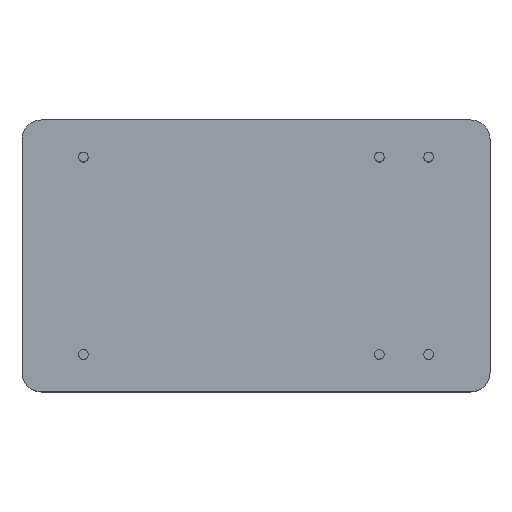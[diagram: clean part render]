
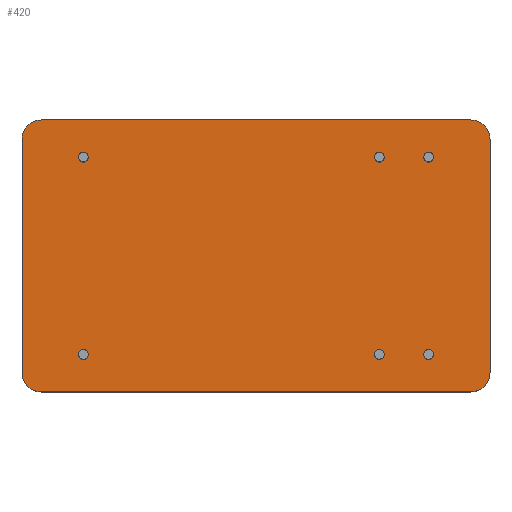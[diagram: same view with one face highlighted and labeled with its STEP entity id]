
A CAD part, top view. The second image highlights one B-rep face of the part: STEP entity #420.
In plain terms, the highlighted planar face has unit normal (0, 0, 1).
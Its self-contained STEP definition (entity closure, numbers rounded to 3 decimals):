
#24=LINE('',#742,#44);
#28=LINE('',#751,#48);
#31=LINE('',#763,#51);
#33=LINE('',#767,#53);
#44=VECTOR('',#584,12.);
#48=VECTOR('',#594,22.1);
#51=VECTOR('',#609,22.1);
#53=VECTOR('',#613,12.);
#69=PLANE('',#479);
#77=FACE_BOUND('',#147,.T.);
#78=FACE_BOUND('',#148,.T.);
#79=FACE_BOUND('',#149,.T.);
#80=FACE_BOUND('',#150,.T.);
#81=FACE_BOUND('',#151,.T.);
#82=FACE_BOUND('',#152,.T.);
#110=FACE_OUTER_BOUND('',#146,.T.);
#146=EDGE_LOOP('',(#357,#358,#359,#360,#361,#362,#363,#364));
#147=EDGE_LOOP('',(#365));
#148=EDGE_LOOP('',(#366));
#149=EDGE_LOOP('',(#367));
#150=EDGE_LOOP('',(#368));
#151=EDGE_LOOP('',(#369));
#152=EDGE_LOOP('',(#370));
#156=CIRCLE('',#427,0.25);
#158=CIRCLE('',#431,0.25);
#160=CIRCLE('',#435,0.25);
#162=CIRCLE('',#439,0.25);
#164=CIRCLE('',#443,0.25);
#166=CIRCLE('',#447,0.25);
#183=CIRCLE('',#471,1.);
#184=CIRCLE('',#474,1.);
#185=CIRCLE('',#477,1.);
#186=CIRCLE('',#480,1.);
#188=VERTEX_POINT('',#625);
#190=VERTEX_POINT('',#631);
#192=VERTEX_POINT('',#637);
#194=VERTEX_POINT('',#643);
#196=VERTEX_POINT('',#649);
#198=VERTEX_POINT('',#655);
#215=VERTEX_POINT('',#739);
#216=VERTEX_POINT('',#741);
#217=VERTEX_POINT('',#745);
#218=VERTEX_POINT('',#749);
#219=VERTEX_POINT('',#753);
#220=VERTEX_POINT('',#758);
#221=VERTEX_POINT('',#762);
#222=VERTEX_POINT('',#766);
#224=EDGE_CURVE('',#188,#188,#156,.T.);
#226=EDGE_CURVE('',#190,#190,#158,.T.);
#228=EDGE_CURVE('',#192,#192,#160,.T.);
#230=EDGE_CURVE('',#194,#194,#162,.T.);
#232=EDGE_CURVE('',#196,#196,#164,.T.);
#234=EDGE_CURVE('',#198,#198,#166,.T.);
#260=EDGE_CURVE('',#216,#215,#24,.T.);
#263=EDGE_CURVE('',#217,#215,#183,.T.);
#265=EDGE_CURVE('',#217,#218,#28,.T.);
#267=EDGE_CURVE('',#219,#218,#184,.T.);
#268=EDGE_CURVE('',#216,#220,#185,.T.);
#270=EDGE_CURVE('',#221,#220,#31,.T.);
#272=EDGE_CURVE('',#219,#222,#33,.T.);
#273=EDGE_CURVE('',#221,#222,#186,.T.);
#357=ORIENTED_EDGE('',*,*,#268,.F.);
#358=ORIENTED_EDGE('',*,*,#260,.T.);
#359=ORIENTED_EDGE('',*,*,#263,.F.);
#360=ORIENTED_EDGE('',*,*,#265,.T.);
#361=ORIENTED_EDGE('',*,*,#267,.F.);
#362=ORIENTED_EDGE('',*,*,#272,.T.);
#363=ORIENTED_EDGE('',*,*,#273,.F.);
#364=ORIENTED_EDGE('',*,*,#270,.T.);
#365=ORIENTED_EDGE('',*,*,#224,.T.);
#366=ORIENTED_EDGE('',*,*,#226,.T.);
#367=ORIENTED_EDGE('',*,*,#228,.T.);
#368=ORIENTED_EDGE('',*,*,#230,.T.);
#369=ORIENTED_EDGE('',*,*,#232,.T.);
#370=ORIENTED_EDGE('',*,*,#234,.T.);
#420=ADVANCED_FACE('',(#110,#77,#78,#79,#80,#81,#82),#69,.T.);
#427=AXIS2_PLACEMENT_3D('',#626,#489,#490);
#431=AXIS2_PLACEMENT_3D('',#632,#497,#498);
#435=AXIS2_PLACEMENT_3D('',#638,#505,#506);
#439=AXIS2_PLACEMENT_3D('',#644,#513,#514);
#443=AXIS2_PLACEMENT_3D('',#650,#521,#522);
#447=AXIS2_PLACEMENT_3D('',#656,#529,#530);
#471=AXIS2_PLACEMENT_3D('',#747,#589,#590);
#474=AXIS2_PLACEMENT_3D('',#755,#598,#599);
#477=AXIS2_PLACEMENT_3D('',#759,#604,#605);
#479=AXIS2_PLACEMENT_3D('',#765,#611,#612);
#480=AXIS2_PLACEMENT_3D('',#768,#614,#615);
#489=DIRECTION('center_axis',(0.,0.,-1.));
#490=DIRECTION('ref_axis',(-1.,0.,0.));
#497=DIRECTION('center_axis',(0.,0.,-1.));
#498=DIRECTION('ref_axis',(-1.,0.,0.));
#505=DIRECTION('center_axis',(0.,0.,-1.));
#506=DIRECTION('ref_axis',(-1.,0.,0.));
#513=DIRECTION('center_axis',(0.,0.,-1.));
#514=DIRECTION('ref_axis',(-1.,0.,0.));
#521=DIRECTION('center_axis',(0.,0.,-1.));
#522=DIRECTION('ref_axis',(-1.,0.,0.));
#529=DIRECTION('center_axis',(0.,0.,-1.));
#530=DIRECTION('ref_axis',(-1.,0.,0.));
#584=DIRECTION('',(0.,-1.,0.));
#589=DIRECTION('center_axis',(0.,0.,-1.));
#590=DIRECTION('ref_axis',(-0.707,-0.707,0.));
#594=DIRECTION('',(1.,0.,0.));
#598=DIRECTION('center_axis',(0.,0.,-1.));
#599=DIRECTION('ref_axis',(0.707,-0.707,0.));
#604=DIRECTION('center_axis',(0.,0.,-1.));
#605=DIRECTION('ref_axis',(-0.707,0.707,0.));
#609=DIRECTION('',(-1.,0.,0.));
#611=DIRECTION('center_axis',(0.,0.,1.));
#612=DIRECTION('ref_axis',(1.,0.,0.));
#613=DIRECTION('',(0.,1.,0.));
#614=DIRECTION('center_axis',(0.,0.,-1.));
#615=DIRECTION('ref_axis',(0.707,0.707,0.));
#625=CARTESIAN_POINT('',(6.6,-5.08,7.9));
#626=CARTESIAN_POINT('Origin',(6.35,-5.08,7.9));
#631=CARTESIAN_POINT('',(9.14,5.08,7.9));
#632=CARTESIAN_POINT('Origin',(8.89,5.08,7.9));
#637=CARTESIAN_POINT('',(-8.64,5.08,7.9));
#638=CARTESIAN_POINT('Origin',(-8.89,5.08,7.9));
#643=CARTESIAN_POINT('',(6.6,5.08,7.9));
#644=CARTESIAN_POINT('Origin',(6.35,5.08,7.9));
#649=CARTESIAN_POINT('',(9.14,-5.08,7.9));
#650=CARTESIAN_POINT('Origin',(8.89,-5.08,7.9));
#655=CARTESIAN_POINT('',(-8.64,-5.08,7.9));
#656=CARTESIAN_POINT('Origin',(-8.89,-5.08,7.9));
#739=CARTESIAN_POINT('',(-12.05,-6.,7.9));
#741=CARTESIAN_POINT('',(-12.05,6.,7.9));
#742=CARTESIAN_POINT('',(-12.05,-7.,7.9));
#745=CARTESIAN_POINT('',(-11.05,-7.,7.9));
#747=CARTESIAN_POINT('Origin',(-11.05,-6.,7.9));
#749=CARTESIAN_POINT('',(11.05,-7.,7.9));
#751=CARTESIAN_POINT('',(12.05,-7.,7.9));
#753=CARTESIAN_POINT('',(12.05,-6.,7.9));
#755=CARTESIAN_POINT('Origin',(11.05,-6.,7.9));
#758=CARTESIAN_POINT('',(-11.05,7.,7.9));
#759=CARTESIAN_POINT('Origin',(-11.05,6.,7.9));
#762=CARTESIAN_POINT('',(11.05,7.,7.9));
#763=CARTESIAN_POINT('',(-12.05,7.,7.9));
#765=CARTESIAN_POINT('Origin',(0.,0.,7.9));
#766=CARTESIAN_POINT('',(12.05,6.,7.9));
#767=CARTESIAN_POINT('',(12.05,7.,7.9));
#768=CARTESIAN_POINT('Origin',(11.05,6.,7.9));
